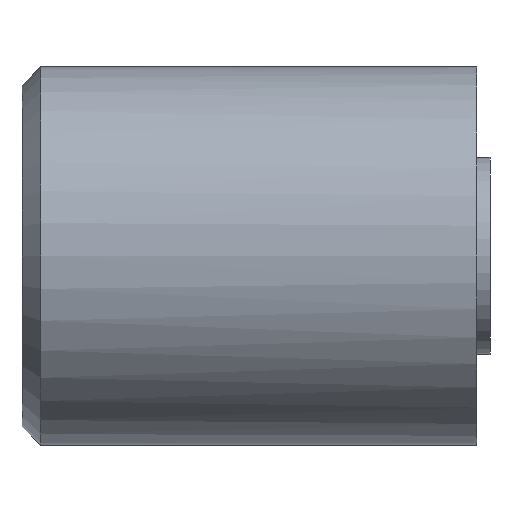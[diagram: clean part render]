
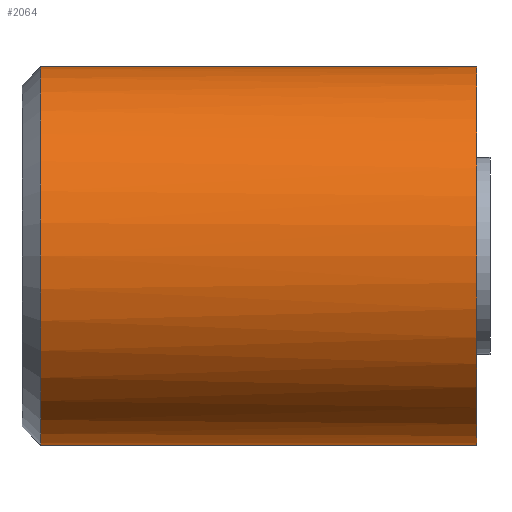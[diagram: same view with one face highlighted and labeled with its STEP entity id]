
A CAD part, front view. The second image highlights one B-rep face of the part: STEP entity #2064.
In plain terms, the highlighted cylindrical face has radius 5 mm (diameter 10 mm), a partial arc.
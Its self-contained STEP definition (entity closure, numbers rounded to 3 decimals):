
#124=CARTESIAN_POINT('Vertex',(0.,0.,-5.)) ;
#130=CARTESIAN_POINT('Control Point',(0.,-5.,0.)) ;
#131=CARTESIAN_POINT('Control Point',(0.,-5.,-0.548)) ;
#132=CARTESIAN_POINT('Control Point',(0.,-4.925,-1.095)) ;
#133=CARTESIAN_POINT('Control Point',(0.,-4.775,-1.629)) ;
#134=CARTESIAN_POINT('Control Point',(0.,-4.333,-2.643)) ;
#135=CARTESIAN_POINT('Control Point',(0.,-3.634,-3.5)) ;
#136=CARTESIAN_POINT('Control Point',(0.,-3.228,-3.878)) ;
#137=CARTESIAN_POINT('Control Point',(0.,-2.382,-4.47)) ;
#138=CARTESIAN_POINT('Control Point',(0.,-1.417,-4.831)) ;
#139=CARTESIAN_POINT('Control Point',(0.,-0.951,-4.944)) ;
#140=CARTESIAN_POINT('Control Point',(0.,-0.475,-5.)) ;
#141=CARTESIAN_POINT('Control Point',(0.,0.,-5.)) ;
#142=CARTESIAN_POINT('Vertex',(0.,-5.,0.)) ;
#146=CARTESIAN_POINT('Control Point',(0.,0.,5.)) ;
#147=CARTESIAN_POINT('Control Point',(0.,-0.072,5.)) ;
#148=CARTESIAN_POINT('Control Point',(0.,-0.145,4.999)) ;
#149=CARTESIAN_POINT('Control Point',(0.,-0.217,4.996)) ;
#150=CARTESIAN_POINT('Control Point',(0.,-0.836,4.962)) ;
#151=CARTESIAN_POINT('Control Point',(0.,-1.449,4.833)) ;
#152=CARTESIAN_POINT('Control Point',(0.,-1.97,4.645)) ;
#153=CARTESIAN_POINT('Control Point',(0.,-2.949,4.13)) ;
#154=CARTESIAN_POINT('Control Point',(0.,-3.753,3.372)) ;
#155=CARTESIAN_POINT('Control Point',(0.,-4.101,2.939)) ;
#156=CARTESIAN_POINT('Control Point',(0.,-4.593,2.116)) ;
#157=CARTESIAN_POINT('Control Point',(0.,-4.878,1.203)) ;
#158=CARTESIAN_POINT('Control Point',(0.,-4.959,0.806)) ;
#159=CARTESIAN_POINT('Control Point',(0.,-5.,0.403)) ;
#160=CARTESIAN_POINT('Control Point',(0.,-5.,0.)) ;
#161=CARTESIAN_POINT('Vertex',(0.,0.,5.)) ;
#2004=CARTESIAN_POINT('Line Origine',(12.,0.,5.)) ;
#2008=CARTESIAN_POINT('Vertex',(11.5,0.,5.)) ;
#2022=CARTESIAN_POINT('Vertex',(11.5,0.,-5.)) ;
#2025=CARTESIAN_POINT('Line Origine',(12.,0.,-5.)) ;
#2039=CARTESIAN_POINT('Axis2P3D Location',(12.,0.,0.)) ;
#2044=CARTESIAN_POINT('Axis2P3D Location',(11.5,0.,0.)) ;
#2048=CARTESIAN_POINT('Vertex',(11.5,-5.,0.)) ;
#2051=CARTESIAN_POINT('Axis2P3D Location',(11.5,0.,0.)) ;
#2005=DIRECTION('Vector Direction',(-1.,0.,0.)) ;
#2026=DIRECTION('Vector Direction',(-1.,0.,0.)) ;
#2040=DIRECTION('Axis2P3D Direction',(-1.,-0.,-0.)) ;
#2041=DIRECTION('Axis2P3D XDirection',(0.,0.,-1.)) ;
#2045=DIRECTION('Axis2P3D Direction',(-1.,-0.,-0.)) ;
#2052=DIRECTION('Axis2P3D Direction',(-1.,-0.,-0.)) ;
#2042=AXIS2_PLACEMENT_3D('Cylinder Axis2P3D',#2039,#2040,#2041) ;
#2046=AXIS2_PLACEMENT_3D('Circle Axis2P3D',#2044,#2045,$) ;
#2053=AXIS2_PLACEMENT_3D('Circle Axis2P3D',#2051,#2052,$) ;
#2057=ORIENTED_EDGE('',*,*,#2029,.T.) ;
#2058=ORIENTED_EDGE('',*,*,#2050,.F.) ;
#2059=ORIENTED_EDGE('',*,*,#2055,.F.) ;
#2060=ORIENTED_EDGE('',*,*,#2010,.T.) ;
#2061=ORIENTED_EDGE('',*,*,#163,.T.) ;
#2062=ORIENTED_EDGE('',*,*,#144,.T.) ;
#2006=VECTOR('Line Direction',#2005,1.) ;
#2027=VECTOR('Line Direction',#2026,1.) ;
#2064=ADVANCED_FACE('D374-10-A-DM-FA',(#2063),#2043,.T.) ;
#129=B_SPLINE_CURVE_WITH_KNOTS('',5,(#130,#131,#132,#133,#134,#135,#136,#137,#138,#139,#140,#141),.UNSPECIFIED.,.F.,.U.,(6,3,3,6),(0.,3.873,7.746,11.107),.UNSPECIFIED.) ;
#145=B_SPLINE_CURVE_WITH_KNOTS('',5,(#146,#147,#148,#149,#150,#151,#152,#153,#154,#155,#156,#157,#158,#159,#160),.UNSPECIFIED.,.F.,.U.,(6,3,3,3,6),(11.107,11.619,15.492,19.365,22.214),.UNSPECIFIED.) ;
#2047=CIRCLE('generated circle',#2046,5.) ;
#2054=CIRCLE('generated circle',#2053,5.) ;
#2043=CYLINDRICAL_SURFACE('generated cylinder',#2042,5.) ;
#144=EDGE_CURVE('',#143,#125,#129,.T.) ;
#163=EDGE_CURVE('',#162,#143,#145,.T.) ;
#2010=EDGE_CURVE('',#2009,#162,#2007,.T.) ;
#2029=EDGE_CURVE('',#125,#2023,#2028,.F.) ;
#2050=EDGE_CURVE('',#2049,#2023,#2047,.F.) ;
#2055=EDGE_CURVE('',#2009,#2049,#2054,.F.) ;
#2056=EDGE_LOOP('',(#2057,#2058,#2059,#2060,#2061,#2062)) ;
#2063=FACE_OUTER_BOUND('',#2056,.T.) ;
#2007=LINE('Line',#2004,#2006) ;
#2028=LINE('Line',#2025,#2027) ;
#125=VERTEX_POINT('',#124) ;
#143=VERTEX_POINT('',#142) ;
#162=VERTEX_POINT('',#161) ;
#2009=VERTEX_POINT('',#2008) ;
#2023=VERTEX_POINT('',#2022) ;
#2049=VERTEX_POINT('',#2048) ;
